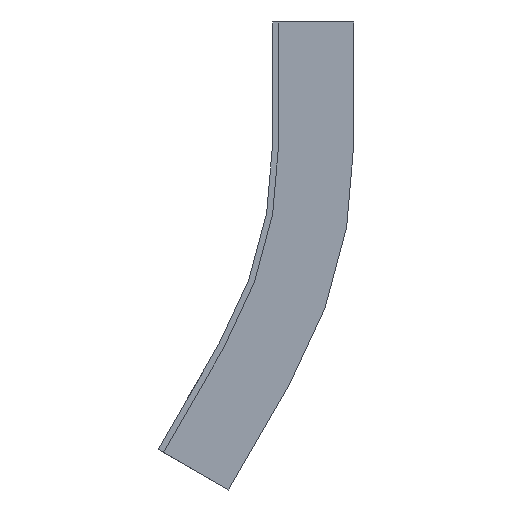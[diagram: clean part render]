
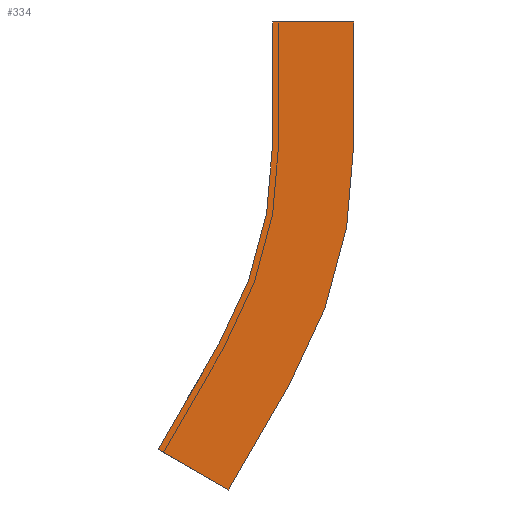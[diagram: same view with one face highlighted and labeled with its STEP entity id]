
A CAD part, left-side view. The second image highlights one B-rep face of the part: STEP entity #334.
In plain terms, the highlighted planar face has unit normal (-1, 0, 0).
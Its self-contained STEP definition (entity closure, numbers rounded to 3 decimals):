
#58 = EDGE_CURVE ( 'NONE', #124, #440, #465, .T. ) ;
#63 = DIRECTION ( 'NONE',  ( 0., 0., -1. ) ) ;
#78 = LINE ( 'NONE', #205, #563 ) ;
#82 = DIRECTION ( 'NONE',  ( 0., 0.5, -0.866 ) ) ;
#87 = AXIS2_PLACEMENT_3D ( 'NONE', #207, #161, #832 ) ;
#95 = CARTESIAN_POINT ( 'NONE',  ( -303.5, -20., 0. ) ) ;
#96 = VECTOR ( 'NONE', #228, 1000. ) ;
#103 = DIRECTION ( 'NONE',  ( 0., 0.866, 0.5 ) ) ;
#110 = ORIENTED_EDGE ( 'NONE', *, *, #238, .F. ) ;
#114 = PLANE ( 'NONE',  #166 ) ;
#116 = CARTESIAN_POINT ( 'NONE',  ( -303.5, 28.196, -105.231 ) ) ;
#124 = VERTEX_POINT ( 'NONE', #191 ) ;
#161 = DIRECTION ( 'NONE',  ( 1., 0., 0. ) ) ;
#166 = AXIS2_PLACEMENT_3D ( 'NONE', #716, #172, #298 ) ;
#167 = ORIENTED_EDGE ( 'NONE', *, *, #586, .F. ) ;
#172 = DIRECTION ( 'NONE',  ( 1., 0., 0. ) ) ;
#182 = VECTOR ( 'NONE', #472, 1000. ) ;
#191 = CARTESIAN_POINT ( 'NONE',  ( -303.5, -20., -30. ) ) ;
#205 = CARTESIAN_POINT ( 'NONE',  ( -303.5, -20., 0. ) ) ;
#207 = CARTESIAN_POINT ( 'NONE',  ( -303.5, 98.5, -30. ) ) ;
#228 = DIRECTION ( 'NONE',  ( 0., -0.5, 0.866 ) ) ;
#236 = CARTESIAN_POINT ( 'NONE',  ( -303.5, 0., 0. ) ) ;
#238 = EDGE_CURVE ( 'NONE', #440, #692, #340, .T. ) ;
#261 = VERTEX_POINT ( 'NONE', #236 ) ;
#266 = CARTESIAN_POINT ( 'NONE',  ( -303.5, 28.196, -105.231 ) ) ;
#280 = LINE ( 'NONE', #394, #182 ) ;
#298 = DIRECTION ( 'NONE',  ( 0., 0., -1. ) ) ;
#334 = ADVANCED_FACE ( 'NONE', ( #783 ), #114, .F. ) ;
#340 = LINE ( 'NONE', #411, #842 ) ;
#347 = DIRECTION ( 'NONE',  ( 0., -1., 0. ) ) ;
#350 = LINE ( 'NONE', #116, #351 ) ;
#351 = VECTOR ( 'NONE', #103, 1000. ) ;
#353 = EDGE_CURVE ( 'NONE', #692, #444, #350, .T. ) ;
#354 = EDGE_CURVE ( 'NONE', #444, #567, #508, .T. ) ;
#364 = VECTOR ( 'NONE', #695, 1000. ) ;
#378 = CARTESIAN_POINT ( 'NONE',  ( -303.5, -4.124, -89.25 ) ) ;
#383 = CARTESIAN_POINT ( 'NONE',  ( -303.5, 0., 0. ) ) ;
#394 = CARTESIAN_POINT ( 'NONE',  ( -303.5, -20., -30. ) ) ;
#410 = CIRCLE ( 'NONE', #756, 98.5 ) ;
#411 = CARTESIAN_POINT ( 'NONE',  ( -303.5, 10.876, -115.231 ) ) ;
#433 = CARTESIAN_POINT ( 'NONE',  ( -303.5, 13.196, -79.25 ) ) ;
#440 = VERTEX_POINT ( 'NONE', #378 ) ;
#444 = VERTEX_POINT ( 'NONE', #266 ) ;
#448 = DIRECTION ( 'NONE',  ( -1., 0., 0. ) ) ;
#465 = CIRCLE ( 'NONE', #87, 118.5 ) ;
#472 = DIRECTION ( 'NONE',  ( 0., 0., -1. ) ) ;
#483 = EDGE_CURVE ( 'NONE', #261, #579, #78, .T. ) ;
#506 = ORIENTED_EDGE ( 'NONE', *, *, #354, .F. ) ;
#508 = LINE ( 'NONE', #433, #96 ) ;
#510 = ORIENTED_EDGE ( 'NONE', *, *, #353, .F. ) ;
#530 = ORIENTED_EDGE ( 'NONE', *, *, #561, .F. ) ;
#561 = EDGE_CURVE ( 'NONE', #579, #124, #280, .T. ) ;
#563 = VECTOR ( 'NONE', #347, 1000. ) ;
#567 = VERTEX_POINT ( 'NONE', #681 ) ;
#568 = CARTESIAN_POINT ( 'NONE',  ( -303.5, 0., -30. ) ) ;
#579 = VERTEX_POINT ( 'NONE', #95 ) ;
#586 = EDGE_CURVE ( 'NONE', #567, #718, #410, .T. ) ;
#639 = EDGE_LOOP ( 'NONE', ( #863, #644, #167, #506, #510, #110, #717, #530 ) ) ;
#644 = ORIENTED_EDGE ( 'NONE', *, *, #854, .F. ) ;
#678 = CARTESIAN_POINT ( 'NONE',  ( -303.5, 98.5, -30. ) ) ;
#681 = CARTESIAN_POINT ( 'NONE',  ( -303.5, 13.196, -79.25 ) ) ;
#692 = VERTEX_POINT ( 'NONE', #837 ) ;
#695 = DIRECTION ( 'NONE',  ( 0., 0., 1. ) ) ;
#716 = CARTESIAN_POINT ( 'NONE',  ( -303.5, 98.5, -30. ) ) ;
#717 = ORIENTED_EDGE ( 'NONE', *, *, #58, .F. ) ;
#718 = VERTEX_POINT ( 'NONE', #568 ) ;
#738 = LINE ( 'NONE', #383, #364 ) ;
#756 = AXIS2_PLACEMENT_3D ( 'NONE', #678, #448, #63 ) ;
#783 = FACE_OUTER_BOUND ( 'NONE', #639, .T. ) ;
#832 = DIRECTION ( 'NONE',  ( 0., 0., 1. ) ) ;
#837 = CARTESIAN_POINT ( 'NONE',  ( -303.5, 10.876, -115.231 ) ) ;
#842 = VECTOR ( 'NONE', #82, 1000. ) ;
#854 = EDGE_CURVE ( 'NONE', #718, #261, #738, .T. ) ;
#863 = ORIENTED_EDGE ( 'NONE', *, *, #483, .F. ) ;
